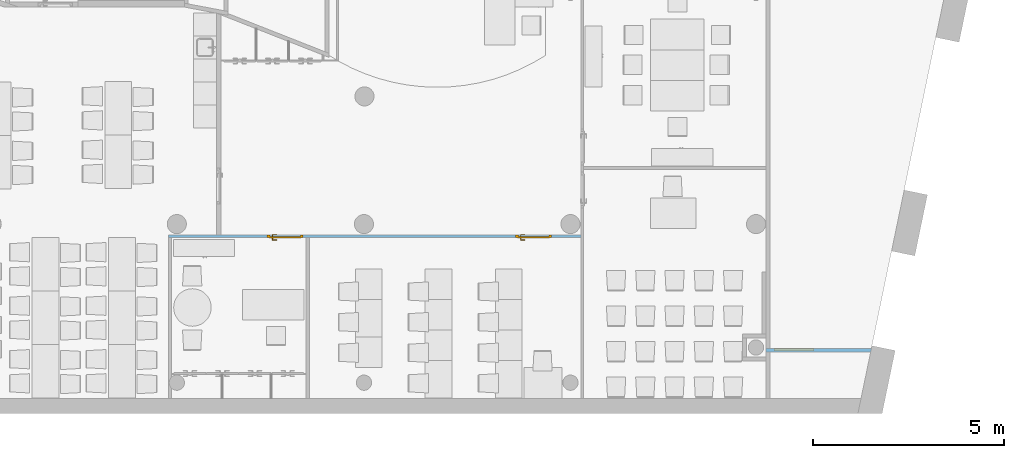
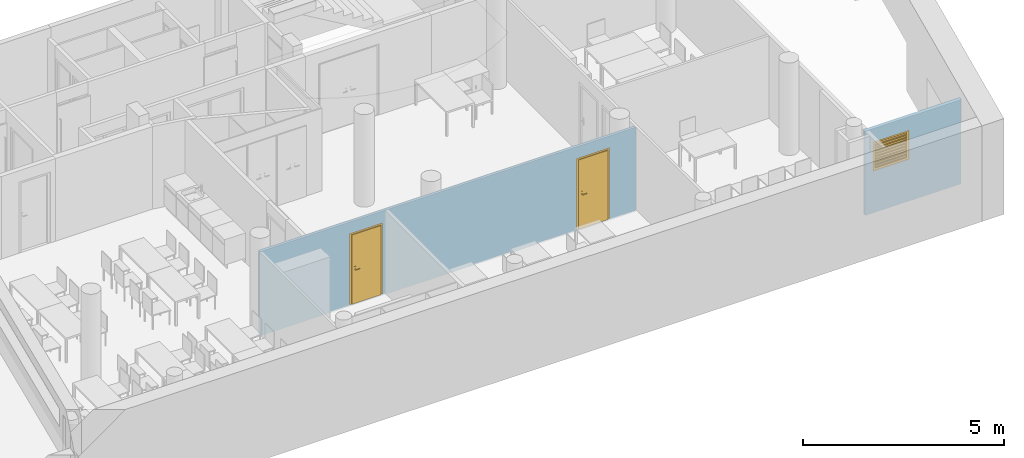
"""IFC4 building model written with IfcOpenShell, lengths in metres."""

from ifc_helpers import new_model, entity, si_unit, converted_unit, derived_unit, frame, frame_2d, origin, origin_with_axes, place, context, subcontext, project, spatial, polyline, rectangle, outline, extrude, closed_shell, open_shell, faceted_brep, surface_model, source, transform, mapped, material, layer, layer_set, layer_usage, type_object, element, fill, save


model = new_model("IFC4")

# Units and contexts
model_context = context("Model", 3, precision=1e-05, world=origin())
body_context = subcontext(model_context, "Body", "Model", "MODEL_VIEW")
ifc_project = project(units=[si_unit("LENGTHUNIT", "METRE"), si_unit("AREAUNIT", "SQUARE_METRE"), si_unit("VOLUMEUNIT", "CUBIC_METRE"), si_unit("MASSUNIT", "GRAM", prefix="KILO"), converted_unit("PLANEANGLEUNIT", "DEGREE", entity("IfcPlaneAngleMeasure", 0.0174532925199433), si_unit("PLANEANGLEUNIT", "RADIAN"), dimensions=[0, 0, 0, 0, 0, 0, 0]), derived_unit("THERMALTRANSMITTANCEUNIT", [(si_unit("POWERUNIT", "WATT"), 1), (si_unit("THERMODYNAMICTEMPERATUREUNIT", "KELVIN"), -1), (si_unit("LENGTHUNIT", "METRE"), -2)]), derived_unit("VOLUMETRICFLOWRATEUNIT", [(si_unit("LENGTHUNIT", "METRE"), 3), (converted_unit("TIMEUNIT", "hour", entity("IfcTimeMeasure", 3600.0), si_unit("TIMEUNIT", "SECOND"), dimensions=[0, 0, 1, 0, 0, 0, 0]), -1), (si_unit("LENGTHUNIT", "METRE"), -1)])], contexts=[model_context])

# Building, storeys
building_placement = place(None, origin())
building = spatial("IfcBuilding", under=ifc_project, at=building_placement, Name="HABITATGE PLURIFAMILIAR", CompositionType="ELEMENT")
storey_1_placement = place(building_placement, frame((0.0, 0.0, 3.35)))
storey_1 = spatial("IfcBuildingStorey", under=building, at=storey_1_placement, Name="PLANTA  ALTELL", CompositionType="ELEMENT", Elevation=3.35)
storey_2_placement = place(storey_1_placement, origin())
storey_2 = spatial("IfcBuildingStorey", under=storey_1, at=storey_2_placement, Name="NOU", CompositionType="PARTIAL")

# Wall, openings, doors
ifc_material_1 = material()
ifc_layer_1 = layer(ifc_material_1, 0.07)
ifc_layer_set_1 = layer_set([ifc_layer_1])
ifc_layer_usage_1 = layer_usage(ifc_layer_set_1, "AXIS2", "POSITIVE", 0.0)
wall_1_placement = place(storey_2_placement, frame((416.412010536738, 17.5196064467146, -0.05), z_axis=(0.0, 0.0, 1.0), x_axis=(-1.0, 0.0, 0.0)))
wall_1 = element("IfcWall", 1, at=wall_1_placement, inside=storey_2, material=ifc_layer_usage_1, Name="Evans PA", context=body_context, shape_type="SweptSolid", body=[
    extrude(rectangle(XDim=10.789892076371, YDim=0.07, at=frame_2d((5.3949460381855, 0.035), x_axis=(1.0, 0.0))), origin_with_axes(), (0.0, 0.0, 1.0), 2.55),
])
opening_1_placement = place(wall_1_placement, frame((0.769992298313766, 0.0, 0.05), z_axis=(0.0, 1.0, 0.0), x_axis=(0.0, 0.0, 1.0)))
opening_1 = element("IfcOpeningElement", 2, at=opening_1_placement, cuts=wall_1, Name="Vano de puerta PA", ObjectType="Opening", context=body_context, shape_type="SweptSolid", body=[
    extrude(outline(polyline([(2.15, 0.94), (2.15, 0.0), (0.0, 0.0), (0.0, 0.94), (2.15, 0.94)])), origin_with_axes(), (0.0, 0.0, 1.0), 0.07),
])
opening_2_placement = place(wall_1_placement, frame((7.26989796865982, 0.0, 0.05), z_axis=(0.0, 1.0, 0.0), x_axis=(0.0, 0.0, 1.0)))
opening_2 = element("IfcOpeningElement", 3, at=opening_2_placement, cuts=wall_1, Name="Vano de puerta PA", ObjectType="Opening", context=body_context, shape_type="SweptSolid", body=[
    extrude(outline(polyline([(2.15, 0.94), (2.15, 0.0), (0.0, 0.0), (0.0, 0.94), (2.15, 0.94)])), origin_with_axes(), (0.0, 0.0, 1.0), 0.07),
])
shared_shape_1 = source(origin_with_axes(), body_context, "Body", "Brep", [
    faceted_brep([(0.94, 0.07, 2.15), (0.87, 0.07, 2.15), (0.87, 0.07, 0.0), (0.94, 0.07, 0.0), (0.94, 0.0, 0.0), (0.87, 0.0, 0.0), (0.87, 0.0, 2.15), (0.94, 0.0, 2.15)], [[[0, 1, 2, 3]], [[4, 5, 6, 7]], [[3, 4, 7, 0]], [[2, 5, 4, 3]], [[1, 6, 5, 2]], [[0, 7, 6, 1]]], orient=[[False], [False], [False], [False], [False], [False]]),
    faceted_brep([(0.07, 0.07, 2.15), (0.0, 0.07, 2.15), (0.0, 0.07, 0.0), (0.07, 0.07, 0.0), (0.07, 0.0, 0.0), (0.0, 0.0, 0.0), (0.0, 0.0, 2.15), (0.07, 0.0, 2.15)], [[[0, 1, 2, 3]], [[4, 5, 6, 7]], [[3, 4, 7, 0]], [[2, 5, 4, 3]], [[1, 6, 5, 2]], [[0, 7, 6, 1]]], orient=[[False], [False], [False], [False], [False], [False]]),
    faceted_brep([(0.87, 0.07, 2.15), (0.07, 0.07, 2.15), (0.07, 0.07, 2.08), (0.87, 0.07, 2.08), (0.87, 0.0, 2.08), (0.07, 0.0, 2.08), (0.07, 0.0, 2.15), (0.87, 0.0, 2.15)], [[[0, 1, 2, 3]], [[4, 5, 6, 7]], [[3, 4, 7, 0]], [[2, 5, 4, 3]], [[1, 6, 5, 2]], [[0, 7, 6, 1]]], orient=[[False], [False], [False], [False], [False], [False]]),
    faceted_brep([(0.89, 0.09, 2.1), (0.05, 0.09, 2.1), (0.05, 0.09, 0.0), (0.89, 0.09, 0.0), (0.89, 0.05, 0.0), (0.05, 0.05, 0.0), (0.05, 0.05, 2.1), (0.89, 0.05, 2.1)], [[[0, 1, 2, 3]], [[4, 5, 6, 7]], [[3, 4, 7, 0]], [[2, 5, 4, 3]], [[1, 6, 5, 2]], [[0, 7, 6, 1]]], orient=[[False], [False], [False], [False], [False], [False]]),
    faceted_brep([(0.83, 0.05, 1.125), (0.78, 0.05, 1.125), (0.78, 0.05, 0.91), (0.83, 0.05, 0.91), (0.83, 0.04, 0.91), (0.78, 0.04, 0.91), (0.78, 0.04, 1.125), (0.83, 0.04, 1.125)], [[[0, 1, 2, 3]], [[4, 5, 6, 7]], [[3, 4, 7, 0]], [[2, 5, 4, 3]], [[1, 6, 5, 2]], [[0, 7, 6, 1]]], orient=[[False], [False], [False], [False], [False], [False]]),
    faceted_brep([(0.805, 0.04, 1.06), (0.8, 0.04, 1.05866025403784), (0.796339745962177, 0.04, 1.055), (0.795, 0.04, 1.05), (0.796339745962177, 0.04, 1.045), (0.8, 0.04, 1.04133974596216), (0.805, 0.04, 1.04), (0.81, 0.04, 1.04133974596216), (0.813660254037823, 0.04, 1.045), (0.815, 0.04, 1.05), (0.813660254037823, 0.04, 1.055), (0.81, 0.04, 1.05866025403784), (0.81, -0.005, 1.05866025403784), (0.805, 0.0, 1.06), (0.813660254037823, -0.00866025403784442, 1.055), (0.815, -0.01, 1.05), (0.813660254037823, -0.00866025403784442, 1.045), (0.81, -0.005, 1.04133974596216), (0.805, 0.0, 1.04), (0.8, 0.005, 1.04133974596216), (0.796339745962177, 0.00866025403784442, 1.045), (0.795, 0.01, 1.05), (0.796339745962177, 0.00866025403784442, 1.055), (0.8, 0.005, 1.05866025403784), (0.69, 0.0, 1.06), (0.69, -0.005, 1.05866025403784), (0.69, -0.00866025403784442, 1.055), (0.69, -0.01, 1.05), (0.69, -0.00866025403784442, 1.045), (0.69, -0.005, 1.04133974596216), (0.69, 0.0, 1.04), (0.69, 0.005, 1.04133974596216), (0.69, 0.00866025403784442, 1.045), (0.69, 0.01, 1.05), (0.69, 0.00866025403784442, 1.055), (0.69, 0.005, 1.05866025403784)], [[[0, 1, 2, 3, 4, 5, 6, 7, 8, 9, 10, 11]], [[0, 11, 12, 13]], [[11, 10, 14, 12]], [[10, 9, 15, 14]], [[9, 8, 16, 15]], [[8, 7, 17, 16]], [[7, 6, 18, 17]], [[6, 5, 19, 18]], [[5, 4, 20, 19]], [[4, 3, 21, 20]], [[3, 2, 22, 21]], [[2, 1, 23, 22]], [[1, 0, 13, 23]], [[24, 25, 26, 27, 28, 29, 30, 31, 32, 33, 34, 35]], [[13, 12, 25, 24]], [[12, 14, 26, 25]], [[14, 15, 27, 26]], [[15, 16, 28, 27]], [[16, 17, 29, 28]], [[17, 18, 30, 29]], [[18, 19, 31, 30]], [[19, 20, 32, 31]], [[20, 21, 33, 32]], [[21, 22, 34, 33]], [[22, 23, 35, 34]], [[23, 13, 24, 35]]], orient=[[False], [False], [False], [False], [False], [False], [False], [False], [False], [False], [False], [False], [False], [False], [False], [False], [False], [False], [False], [False], [False], [False], [False], [False], [False], [False]]),
    faceted_brep([(0.83, 0.09, 1.125), (0.83, 0.09, 0.91), (0.78, 0.09, 0.91), (0.78, 0.09, 1.125), (0.83, 0.1, 0.91), (0.83, 0.1, 1.125), (0.78, 0.1, 1.125), (0.78, 0.1, 0.91)], [[[0, 1, 2, 3]], [[4, 5, 6, 7]], [[1, 0, 5, 4]], [[2, 1, 4, 7]], [[3, 2, 7, 6]], [[0, 3, 6, 5]]], orient=[[False], [False], [False], [False], [False], [False]]),
    faceted_brep([(0.805, 0.1, 1.06), (0.81, 0.1, 1.05866025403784), (0.813660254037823, 0.1, 1.055), (0.815, 0.1, 1.05), (0.813660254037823, 0.1, 1.045), (0.81, 0.1, 1.04133974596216), (0.805, 0.1, 1.04), (0.8, 0.1, 1.04133974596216), (0.796339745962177, 0.1, 1.045), (0.795, 0.1, 1.05), (0.796339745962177, 0.1, 1.055), (0.8, 0.1, 1.05866025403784), (0.805, 0.14, 1.06), (0.81, 0.145, 1.05866025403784), (0.813660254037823, 0.148660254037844, 1.055), (0.815, 0.15, 1.05), (0.813660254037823, 0.148660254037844, 1.045), (0.81, 0.145, 1.04133974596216), (0.805, 0.14, 1.04), (0.8, 0.135, 1.04133974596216), (0.796339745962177, 0.131339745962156, 1.045), (0.795, 0.13, 1.05), (0.796339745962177, 0.131339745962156, 1.055), (0.8, 0.135, 1.05866025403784), (0.69, 0.14, 1.06), (0.69, 0.135, 1.05866025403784), (0.69, 0.131339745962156, 1.055), (0.69, 0.13, 1.05), (0.69, 0.131339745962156, 1.045), (0.69, 0.135, 1.04133974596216), (0.69, 0.14, 1.04), (0.69, 0.145, 1.04133974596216), (0.69, 0.148660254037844, 1.045), (0.69, 0.15, 1.05), (0.69, 0.148660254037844, 1.055), (0.69, 0.145, 1.05866025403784)], [[[0, 1, 2, 3, 4, 5, 6, 7, 8, 9, 10, 11]], [[0, 12, 13, 1]], [[1, 13, 14, 2]], [[2, 14, 15, 3]], [[3, 15, 16, 4]], [[4, 16, 17, 5]], [[5, 17, 18, 6]], [[6, 18, 19, 7]], [[7, 19, 20, 8]], [[8, 20, 21, 9]], [[9, 21, 22, 10]], [[10, 22, 23, 11]], [[11, 23, 12, 0]], [[24, 25, 26, 27, 28, 29, 30, 31, 32, 33, 34, 35]], [[12, 24, 35, 13]], [[13, 35, 34, 14]], [[14, 34, 33, 15]], [[15, 33, 32, 16]], [[16, 32, 31, 17]], [[17, 31, 30, 18]], [[18, 30, 29, 19]], [[19, 29, 28, 20]], [[20, 28, 27, 21]], [[21, 27, 26, 22]], [[22, 26, 25, 23]], [[23, 25, 24, 12]]], orient=[[False], [False], [False], [False], [False], [False], [False], [False], [False], [False], [False], [False], [False], [False], [False], [False], [False], [False], [False], [False], [False], [False], [False], [False], [False], [False]]),
])
door_1_placement = place(opening_1_placement, frame((0.0, 0.0, 0.0), z_axis=(1.0, 0.0, 0.0), x_axis=(0.0, 1.0, 0.0)))
door_1 = element("IfcDoor", 4, at=door_1_placement, inside=storey_2, Name="Porta PA", OperationType="USERDEFINED", OverallHeight=2.15, OverallWidth=0.94, PredefinedType="DOOR", context=body_context, shape_type="MappedRepresentation", body=[
    mapped(shared_shape_1, transform((0.0, 0.0, 0.0), x_axis=(1.0, 0.0, 0.0), y_axis=(0.0, 1.0, 0.0), z_axis=(0.0, 0.0, 1.0), scale=1.0)),
])
fill(opening_1, door_1)
shared_shape_2 = source(origin_with_axes(), body_context, "Body", "Brep", [
    faceted_brep([(0.94, 0.07, 2.15), (0.87, 0.07, 2.15), (0.87, 0.07, 0.0), (0.94, 0.07, 0.0), (0.94, 0.0, 0.0), (0.87, 0.0, 0.0), (0.87, 0.0, 2.15), (0.94, 0.0, 2.15)], [[[0, 1, 2, 3]], [[4, 5, 6, 7]], [[3, 4, 7, 0]], [[2, 5, 4, 3]], [[1, 6, 5, 2]], [[0, 7, 6, 1]]], orient=[[False], [False], [False], [False], [False], [False]]),
    faceted_brep([(0.07, 0.07, 2.15), (0.0, 0.07, 2.15), (0.0, 0.07, 0.0), (0.07, 0.07, 0.0), (0.07, 0.0, 0.0), (0.0, 0.0, 0.0), (0.0, 0.0, 2.15), (0.07, 0.0, 2.15)], [[[0, 1, 2, 3]], [[4, 5, 6, 7]], [[3, 4, 7, 0]], [[2, 5, 4, 3]], [[1, 6, 5, 2]], [[0, 7, 6, 1]]], orient=[[False], [False], [False], [False], [False], [False]]),
    faceted_brep([(0.87, 0.07, 2.15), (0.07, 0.07, 2.15), (0.07, 0.07, 2.08), (0.87, 0.07, 2.08), (0.87, 0.0, 2.08), (0.07, 0.0, 2.08), (0.07, 0.0, 2.15), (0.87, 0.0, 2.15)], [[[0, 1, 2, 3]], [[4, 5, 6, 7]], [[3, 4, 7, 0]], [[2, 5, 4, 3]], [[1, 6, 5, 2]], [[0, 7, 6, 1]]], orient=[[False], [False], [False], [False], [False], [False]]),
    faceted_brep([(0.89, 0.09, 2.1), (0.05, 0.09, 2.1), (0.05, 0.09, 0.0), (0.89, 0.09, 0.0), (0.89, 0.05, 0.0), (0.05, 0.05, 0.0), (0.05, 0.05, 2.1), (0.89, 0.05, 2.1)], [[[0, 1, 2, 3]], [[4, 5, 6, 7]], [[3, 4, 7, 0]], [[2, 5, 4, 3]], [[1, 6, 5, 2]], [[0, 7, 6, 1]]], orient=[[False], [False], [False], [False], [False], [False]]),
    faceted_brep([(0.83, 0.05, 1.125), (0.78, 0.05, 1.125), (0.78, 0.05, 0.91), (0.83, 0.05, 0.91), (0.83, 0.04, 0.91), (0.78, 0.04, 0.91), (0.78, 0.04, 1.125), (0.83, 0.04, 1.125)], [[[0, 1, 2, 3]], [[4, 5, 6, 7]], [[3, 4, 7, 0]], [[2, 5, 4, 3]], [[1, 6, 5, 2]], [[0, 7, 6, 1]]], orient=[[False], [False], [False], [False], [False], [False]]),
    faceted_brep([(0.805, 0.04, 1.06), (0.8, 0.04, 1.05866025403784), (0.796339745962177, 0.04, 1.055), (0.795, 0.04, 1.05), (0.796339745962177, 0.04, 1.045), (0.8, 0.04, 1.04133974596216), (0.805, 0.04, 1.04), (0.81, 0.04, 1.04133974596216), (0.813660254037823, 0.04, 1.045), (0.815, 0.04, 1.05), (0.813660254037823, 0.04, 1.055), (0.81, 0.04, 1.05866025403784), (0.81, -0.005, 1.05866025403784), (0.805, 0.0, 1.06), (0.813660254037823, -0.00866025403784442, 1.055), (0.815, -0.01, 1.05), (0.813660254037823, -0.00866025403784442, 1.045), (0.81, -0.005, 1.04133974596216), (0.805, 0.0, 1.04), (0.8, 0.005, 1.04133974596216), (0.796339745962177, 0.00866025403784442, 1.045), (0.795, 0.01, 1.05), (0.796339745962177, 0.00866025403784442, 1.055), (0.8, 0.005, 1.05866025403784), (0.69, 0.0, 1.06), (0.69, -0.005, 1.05866025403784), (0.69, -0.00866025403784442, 1.055), (0.69, -0.01, 1.05), (0.69, -0.00866025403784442, 1.045), (0.69, -0.005, 1.04133974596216), (0.69, 0.0, 1.04), (0.69, 0.005, 1.04133974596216), (0.69, 0.00866025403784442, 1.045), (0.69, 0.01, 1.05), (0.69, 0.00866025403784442, 1.055), (0.69, 0.005, 1.05866025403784)], [[[0, 1, 2, 3, 4, 5, 6, 7, 8, 9, 10, 11]], [[0, 11, 12, 13]], [[11, 10, 14, 12]], [[10, 9, 15, 14]], [[9, 8, 16, 15]], [[8, 7, 17, 16]], [[7, 6, 18, 17]], [[6, 5, 19, 18]], [[5, 4, 20, 19]], [[4, 3, 21, 20]], [[3, 2, 22, 21]], [[2, 1, 23, 22]], [[1, 0, 13, 23]], [[24, 25, 26, 27, 28, 29, 30, 31, 32, 33, 34, 35]], [[13, 12, 25, 24]], [[12, 14, 26, 25]], [[14, 15, 27, 26]], [[15, 16, 28, 27]], [[16, 17, 29, 28]], [[17, 18, 30, 29]], [[18, 19, 31, 30]], [[19, 20, 32, 31]], [[20, 21, 33, 32]], [[21, 22, 34, 33]], [[22, 23, 35, 34]], [[23, 13, 24, 35]]], orient=[[False], [False], [False], [False], [False], [False], [False], [False], [False], [False], [False], [False], [False], [False], [False], [False], [False], [False], [False], [False], [False], [False], [False], [False], [False], [False]]),
    faceted_brep([(0.83, 0.09, 1.125), (0.83, 0.09, 0.91), (0.78, 0.09, 0.91), (0.78, 0.09, 1.125), (0.83, 0.1, 0.91), (0.83, 0.1, 1.125), (0.78, 0.1, 1.125), (0.78, 0.1, 0.91)], [[[0, 1, 2, 3]], [[4, 5, 6, 7]], [[1, 0, 5, 4]], [[2, 1, 4, 7]], [[3, 2, 7, 6]], [[0, 3, 6, 5]]], orient=[[False], [False], [False], [False], [False], [False]]),
    faceted_brep([(0.805, 0.1, 1.06), (0.81, 0.1, 1.05866025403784), (0.813660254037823, 0.1, 1.055), (0.815, 0.1, 1.05), (0.813660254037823, 0.1, 1.045), (0.81, 0.1, 1.04133974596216), (0.805, 0.1, 1.04), (0.8, 0.1, 1.04133974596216), (0.796339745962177, 0.1, 1.045), (0.795, 0.1, 1.05), (0.796339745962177, 0.1, 1.055), (0.8, 0.1, 1.05866025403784), (0.805, 0.14, 1.06), (0.81, 0.145, 1.05866025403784), (0.813660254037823, 0.148660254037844, 1.055), (0.815, 0.15, 1.05), (0.813660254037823, 0.148660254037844, 1.045), (0.81, 0.145, 1.04133974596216), (0.805, 0.14, 1.04), (0.8, 0.135, 1.04133974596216), (0.796339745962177, 0.131339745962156, 1.045), (0.795, 0.13, 1.05), (0.796339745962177, 0.131339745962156, 1.055), (0.8, 0.135, 1.05866025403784), (0.69, 0.14, 1.06), (0.69, 0.135, 1.05866025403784), (0.69, 0.131339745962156, 1.055), (0.69, 0.13, 1.05), (0.69, 0.131339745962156, 1.045), (0.69, 0.135, 1.04133974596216), (0.69, 0.14, 1.04), (0.69, 0.145, 1.04133974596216), (0.69, 0.148660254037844, 1.045), (0.69, 0.15, 1.05), (0.69, 0.148660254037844, 1.055), (0.69, 0.145, 1.05866025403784)], [[[0, 1, 2, 3, 4, 5, 6, 7, 8, 9, 10, 11]], [[0, 12, 13, 1]], [[1, 13, 14, 2]], [[2, 14, 15, 3]], [[3, 15, 16, 4]], [[4, 16, 17, 5]], [[5, 17, 18, 6]], [[6, 18, 19, 7]], [[7, 19, 20, 8]], [[8, 20, 21, 9]], [[9, 21, 22, 10]], [[10, 22, 23, 11]], [[11, 23, 12, 0]], [[24, 25, 26, 27, 28, 29, 30, 31, 32, 33, 34, 35]], [[12, 24, 35, 13]], [[13, 35, 34, 14]], [[14, 34, 33, 15]], [[15, 33, 32, 16]], [[16, 32, 31, 17]], [[17, 31, 30, 18]], [[18, 30, 29, 19]], [[19, 29, 28, 20]], [[20, 28, 27, 21]], [[21, 27, 26, 22]], [[22, 26, 25, 23]], [[23, 25, 24, 12]]], orient=[[False], [False], [False], [False], [False], [False], [False], [False], [False], [False], [False], [False], [False], [False], [False], [False], [False], [False], [False], [False], [False], [False], [False], [False], [False], [False]]),
])
door_2_placement = place(opening_2_placement, frame((0.0, 0.0, 0.0), z_axis=(1.0, 0.0, 0.0), x_axis=(0.0, 1.0, 0.0)))
door_2 = element("IfcDoor", 5, at=door_2_placement, inside=storey_2, Name="Porta PA", OperationType="USERDEFINED", OverallHeight=2.15, OverallWidth=0.94, PredefinedType="DOOR", context=body_context, shape_type="MappedRepresentation", body=[
    mapped(shared_shape_2, transform((0.0, 0.0, 0.0), x_axis=(1.0, 0.0, 0.0), y_axis=(0.0, 1.0, 0.0), z_axis=(0.0, 0.0, 1.0), scale=1.0)),
])
fill(opening_2, door_2)

# Wall, opening, door
ifc_material_2 = material()
ifc_layer_2 = layer(ifc_material_2, 0.1)
ifc_layer_set_2 = layer_set([ifc_layer_2])
ifc_layer_usage_2 = layer_usage(ifc_layer_set_2, "AXIS2", "POSITIVE", 0.0)
wall_2_placement = place(storey_2_placement, frame((424.012097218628, 14.5495923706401, -0.05), z_axis=(0.0, 0.0, 1.0), x_axis=(-1.0, 0.0, 0.0)))
wall_2 = element("IfcWall", 6, at=wall_2_placement, inside=storey_2, material=ifc_layer_usage_2, Name="Evans PA", context=body_context, shape_type="SweptSolid", body=[
    extrude(outline(polyline([(-2.76513395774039, -0.1), (0.0, -0.1), (-2.27131531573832e-08, 0.0), (-2.74443133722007, 0.0), (-2.76513395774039, -0.1)])), frame((2.76513395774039, 0.1, 0.0), z_axis=(0.0, 0.0, 1.0), x_axis=(1.0, 0.0, 0.0)), (0.0, 0.0, 1.0), 2.55),
])
opening_3_placement = place(wall_2_placement, frame((2.54703331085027, 0.1, 1.25), z_axis=(0.0, -1.0, 0.0), x_axis=(0.0, 0.0, 1.0)))
opening_3 = element("IfcOpeningElement", 7, at=opening_3_placement, cuts=wall_2, Name="Vano dei finestra PA", ObjectType="Opening", context=body_context, shape_type="SweptSolid", body=[
    extrude(outline(polyline([(0.9, 1.04746529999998), (0.9, 0.0), (0.0, 0.0), (0.0, 1.04746529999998), (0.9, 1.04746529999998)])), origin_with_axes(), (0.0, 0.0, 1.0), 0.1),
])
door_type = type_object("IfcDoorType", Name="Reixeta de ventilació PA", OperationType="NOTDEFINED", ParameterTakesPrecedence=False, PredefinedType="DOOR")
shared_shape_3 = source(origin_with_axes(), body_context, "Body", "SurfaceModel", [
    surface_model("IfcShellBasedSurfaceModel", [(0.0, 0.0700000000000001, 0.9), (0.0, 0.07, 0.0), (0.07, 0.07, 0.0), (0.07, 0.0700000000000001, 0.9), (0.0, 0.0, 0.0), (0.0, 0.0, 0.9), (0.07, 0.0, 0.9), (0.07, 0.0, 0.0)], [closed_shell([[[0, 1, 2, 3]], [[4, 5, 6, 7]], [[1, 0, 5, 4]], [[2, 1, 4, 7]], [[3, 2, 7, 6]], [[0, 3, 6, 5]]], orient=[[False], [False], [False], [False], [False], [False]])]),
    surface_model("IfcShellBasedSurfaceModel", [(0.977465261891, 0.0700000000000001, 0.9), (0.977465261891, 0.07, 0.0), (1.047465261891, 0.07, 0.0), (1.047465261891, 0.0700000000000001, 0.9), (0.977465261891, 0.0, 0.0), (0.977465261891, 0.0, 0.9), (1.047465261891, 0.0, 0.9), (1.047465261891, 0.0, 0.0)], [closed_shell([[[0, 1, 2, 3]], [[4, 5, 6, 7]], [[1, 0, 5, 4]], [[2, 1, 4, 7]], [[3, 2, 7, 6]], [[0, 3, 6, 5]]], orient=[[False], [False], [False], [False], [False], [False]])]),
    surface_model("IfcShellBasedSurfaceModel", [(0.07, 0.07, 0.07), (0.07, 0.07, 0.0), (0.977465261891, 0.07, 0.0), (0.977465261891, 0.07, 0.07), (0.07, 0.0, 0.0), (0.07, 0.0, 0.07), (0.977465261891, 0.0, 0.07), (0.977465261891, 0.0, 0.0)], [closed_shell([[[0, 1, 2, 3]], [[4, 5, 6, 7]], [[1, 0, 5, 4]], [[2, 1, 4, 7]], [[3, 2, 7, 6]], [[0, 3, 6, 5]]], orient=[[False], [False], [False], [False], [False], [False]])]),
    surface_model("IfcShellBasedSurfaceModel", [(0.07, 0.0700000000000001, 0.9), (0.07, 0.0700000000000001, 0.83), (0.977465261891, 0.0700000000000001, 0.83), (0.977465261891, 0.0700000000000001, 0.9), (0.07, 0.0, 0.83), (0.07, 0.0, 0.9), (0.977465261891, 0.0, 0.9), (0.977465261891, 0.0, 0.83)], [closed_shell([[[0, 1, 2, 3]], [[4, 5, 6, 7]], [[1, 0, 5, 4]], [[2, 1, 4, 7]], [[3, 2, 7, 6]], [[0, 3, 6, 5]]], orient=[[False], [False], [False], [False], [False], [False]])]),
    surface_model("IfcShellBasedSurfaceModel", [(0.07, 0.07, 0.155555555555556), (0.07, 0.07, 0.145555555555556), (0.977465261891, 0.07, 0.145555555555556), (0.977465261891, 0.07, 0.155555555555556), (0.07, 0.0, 0.145555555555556), (0.07, 0.0, 0.155555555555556), (0.977465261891, 0.0, 0.155555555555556), (0.977465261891, 0.0, 0.145555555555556)], [closed_shell([[[0, 1, 2, 3]], [[4, 5, 6, 7]], [[1, 0, 5, 4]], [[2, 1, 4, 7]], [[3, 2, 7, 6]], [[0, 3, 6, 5]]], orient=[[False], [False], [False], [False], [False], [False]])]),
    surface_model("IfcShellBasedSurfaceModel", [(0.07, 0.07, 0.241111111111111), (0.07, 0.07, 0.231111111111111), (0.977465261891, 0.07, 0.231111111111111), (0.977465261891, 0.07, 0.241111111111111), (0.07, 0.0, 0.231111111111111), (0.07, 0.0, 0.241111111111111), (0.977465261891, 0.0, 0.241111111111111), (0.977465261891, 0.0, 0.231111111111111)], [closed_shell([[[0, 1, 2, 3]], [[4, 5, 6, 7]], [[1, 0, 5, 4]], [[2, 1, 4, 7]], [[3, 2, 7, 6]], [[0, 3, 6, 5]]], orient=[[False], [False], [False], [False], [False], [False]])]),
    surface_model("IfcShellBasedSurfaceModel", [(0.07, 0.07, 0.326666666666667), (0.07, 0.07, 0.316666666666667), (0.977465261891, 0.07, 0.316666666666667), (0.977465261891, 0.07, 0.326666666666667), (0.07, 0.0, 0.316666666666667), (0.07, 0.0, 0.326666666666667), (0.977465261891, 0.0, 0.326666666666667), (0.977465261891, 0.0, 0.316666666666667)], [closed_shell([[[0, 1, 2, 3]], [[4, 5, 6, 7]], [[1, 0, 5, 4]], [[2, 1, 4, 7]], [[3, 2, 7, 6]], [[0, 3, 6, 5]]], orient=[[False], [False], [False], [False], [False], [False]])]),
    surface_model("IfcShellBasedSurfaceModel", [(0.07, 0.07, 0.412222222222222), (0.07, 0.07, 0.402222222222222), (0.977465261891, 0.07, 0.402222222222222), (0.977465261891, 0.07, 0.412222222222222), (0.07, 0.0, 0.402222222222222), (0.07, 0.0, 0.412222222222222), (0.977465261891, 0.0, 0.412222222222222), (0.977465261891, 0.0, 0.402222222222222)], [closed_shell([[[0, 1, 2, 3]], [[4, 5, 6, 7]], [[1, 0, 5, 4]], [[2, 1, 4, 7]], [[3, 2, 7, 6]], [[0, 3, 6, 5]]], orient=[[False], [False], [False], [False], [False], [False]])]),
    surface_model("IfcShellBasedSurfaceModel", [(0.07, 0.07, 0.497777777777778), (0.07, 0.07, 0.487777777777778), (0.977465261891, 0.07, 0.487777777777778), (0.977465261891, 0.07, 0.497777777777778), (0.07, 0.0, 0.487777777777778), (0.07, 0.0, 0.497777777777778), (0.977465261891, 0.0, 0.497777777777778), (0.977465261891, 0.0, 0.487777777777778)], [closed_shell([[[0, 1, 2, 3]], [[4, 5, 6, 7]], [[1, 0, 5, 4]], [[2, 1, 4, 7]], [[3, 2, 7, 6]], [[0, 3, 6, 5]]], orient=[[False], [False], [False], [False], [False], [False]])]),
    surface_model("IfcShellBasedSurfaceModel", [(0.07, 0.07, 0.583333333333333), (0.07, 0.07, 0.573333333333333), (0.977465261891, 0.07, 0.573333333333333), (0.977465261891, 0.07, 0.583333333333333), (0.07, 0.0, 0.573333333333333), (0.07, 0.0, 0.583333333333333), (0.977465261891, 0.0, 0.583333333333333), (0.977465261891, 0.0, 0.573333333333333)], [closed_shell([[[0, 1, 2, 3]], [[4, 5, 6, 7]], [[1, 0, 5, 4]], [[2, 1, 4, 7]], [[3, 2, 7, 6]], [[0, 3, 6, 5]]], orient=[[False], [False], [False], [False], [False], [False]])]),
    surface_model("IfcShellBasedSurfaceModel", [(0.07, 0.0700000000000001, 0.668888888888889), (0.07, 0.0700000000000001, 0.658888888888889), (0.977465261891, 0.0700000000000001, 0.658888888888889), (0.977465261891, 0.0700000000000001, 0.668888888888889), (0.07, 0.0, 0.658888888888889), (0.07, 0.0, 0.668888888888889), (0.977465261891, 0.0, 0.668888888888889), (0.977465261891, 0.0, 0.658888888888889)], [closed_shell([[[0, 1, 2, 3]], [[4, 5, 6, 7]], [[1, 0, 5, 4]], [[2, 1, 4, 7]], [[3, 2, 7, 6]], [[0, 3, 6, 5]]], orient=[[False], [False], [False], [False], [False], [False]])]),
    surface_model("IfcShellBasedSurfaceModel", [(0.07, 0.0700000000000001, 0.754444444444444), (0.07, 0.0700000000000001, 0.744444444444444), (0.977465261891, 0.0700000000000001, 0.744444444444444), (0.977465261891, 0.0700000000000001, 0.754444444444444), (0.07, 0.0, 0.744444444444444), (0.07, 0.0, 0.754444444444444), (0.977465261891, 0.0, 0.754444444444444), (0.977465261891, 0.0, 0.744444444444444)], [closed_shell([[[0, 1, 2, 3]], [[4, 5, 6, 7]], [[1, 0, 5, 4]], [[2, 1, 4, 7]], [[3, 2, 7, 6]], [[0, 3, 6, 5]]], orient=[[False], [False], [False], [False], [False], [False]])]),
    surface_model("IfcShellBasedSurfaceModel", [(0.07, 0.035, 0.07), (0.977465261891, 0.035, 0.07), (0.977465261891, 0.035, 0.145555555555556), (0.07, 0.035, 0.145555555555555), (0.07, 0.035, 0.155555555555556), (0.977465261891, 0.035, 0.155555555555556), (0.977465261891, 0.035, 0.231111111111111), (0.07, 0.035, 0.231111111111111), (0.07, 0.035, 0.241111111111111), (0.977465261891, 0.035, 0.241111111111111), (0.977465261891, 0.035, 0.316666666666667), (0.07, 0.035, 0.316666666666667), (0.07, 0.035, 0.326666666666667), (0.977465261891, 0.035, 0.326666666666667), (0.977465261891, 0.035, 0.402222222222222), (0.07, 0.035, 0.402222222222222), (0.07, 0.035, 0.412222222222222), (0.977465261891, 0.035, 0.412222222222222), (0.977465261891, 0.035, 0.487777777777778), (0.07, 0.035, 0.487777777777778), (0.07, 0.0350000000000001, 0.497777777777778), (0.977465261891, 0.0350000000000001, 0.497777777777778), (0.977465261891, 0.0350000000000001, 0.573333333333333), (0.07, 0.0350000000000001, 0.573333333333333), (0.07, 0.0350000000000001, 0.583333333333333), (0.977465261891, 0.0350000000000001, 0.583333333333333), (0.977465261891, 0.0350000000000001, 0.658888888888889), (0.07, 0.0350000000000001, 0.658888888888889), (0.07, 0.0350000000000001, 0.668888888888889), (0.977465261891, 0.0350000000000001, 0.668888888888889), (0.977465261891, 0.0350000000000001, 0.744444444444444), (0.07, 0.0350000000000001, 0.744444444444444), (0.07, 0.0350000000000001, 0.754444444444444), (0.977465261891, 0.0350000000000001, 0.754444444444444), (0.977465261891, 0.0350000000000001, 0.83), (0.07, 0.0350000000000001, 0.83)], [open_shell([[[0, 1, 2, 3]], [[4, 5, 6, 7]], [[8, 9, 10, 11]], [[12, 13, 14, 15]], [[16, 17, 18, 19]], [[20, 21, 22, 23]], [[24, 25, 26, 27]], [[28, 29, 30, 31]], [[32, 33, 34, 35]]], orient=[[False], [False], [False], [False], [False], [False], [False], [False], [False]])]),
])
door_3_placement = place(opening_3_placement, frame((0.0, 0.0, 0.1), z_axis=(1.0, 0.0, 0.0), x_axis=(0.0, 1.0000000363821, -1.22464684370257e-16)))
door_3 = element("IfcDoor", 8, at=door_3_placement, inside=storey_2, type_object=door_type, Name="Reixeta de ventilació PA", OverallHeight=0.9, OverallWidth=1.04747, context=body_context, shape_type="MappedRepresentation", body=[
    mapped(shared_shape_3, transform((0.0, 0.0, 0.0), x_axis=(1.0, 0.0, 0.0), y_axis=(0.0, -1.0, 0.0), z_axis=(0.0, 0.0, 1.0), scale=1.0000000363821)),
])
fill(opening_3, door_3)

save(model, "model.ifc")
